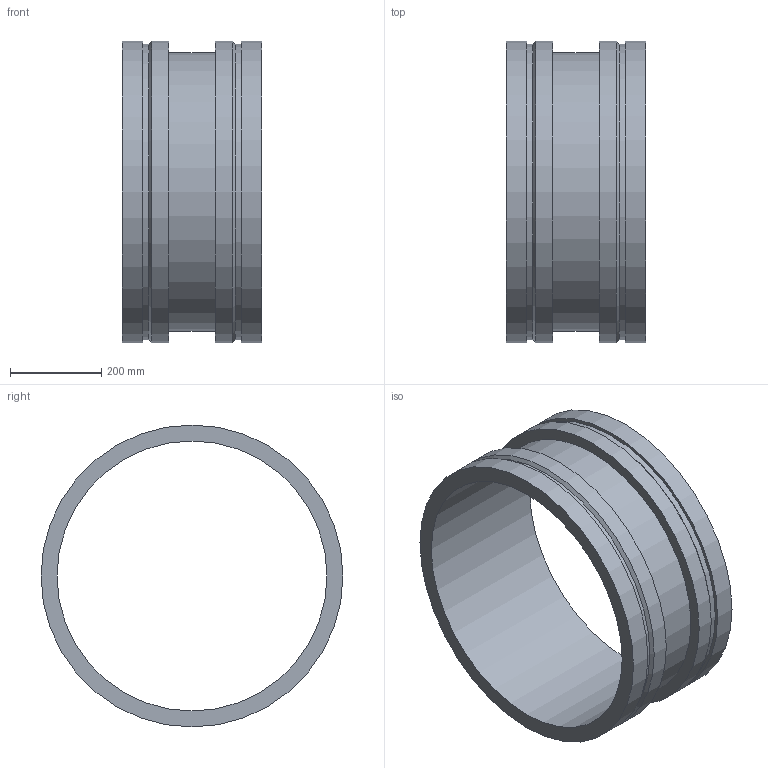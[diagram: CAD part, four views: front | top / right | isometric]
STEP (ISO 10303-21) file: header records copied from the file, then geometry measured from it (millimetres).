
FILE_DESCRIPTION(/* description */ ('VIC ADAPTER NIPPLE No W43 VR','CAx-IF Rec.Pracs.---Representation and Presentation of Product Manufacturing Information (PMI)---4.0---2014-10-13'),/* implementation_level */ '2;1');
FILE_NAME(/* name */ 'C:\Users\kkamble\AppData\Roaming\Autodesk\ApplicationPlugins\Back Up\Victaulic_Vic-Ring_Adapter Nipple_No W43 VR (AGR)\Victaulic_Vic-Ring_Adapter Nipple_No W43 VR (AGR)_24 (600).stp',/* time_stamp */ '2020-09-10T11:31:18+05:00',/* author */ ('cps_temp'),/* organization */ ('Victaulic'),/* preprocessor_version */ 'ST-DEVELOPER v17.2',/* originating_system */ 'Autodesk Inventor 2019',/* authorisation */ '');
FILE_SCHEMA (('AP242_MANAGED_MODEL_BASED_3D_ENGINEERING_MIM_LF { 1 0 10303 442 1 1 4 }'));
Length unit declared in the file: inch
Products named in the file (1): W43 VR-24.0
Bounding box: 304.8 x 660.4 x 660.4 mm (x, y, z)
Volume: 15275152.7 mm3; surface area: 1462286.9 mm2
Topology: 1 solids, 1 shells, 16 faces, 42 edges, 32 vertices
Faces by surface type: cylinder 8, plane 6, cone 2
Full cylindrical faces by diameter (mm): 590.55 x1, 609.6 x1, 645.922 x2, 660.4 x4
Entity records: 686 total; most frequent: DIRECTION 134, CARTESIAN_POINT 108, ORIENTED_EDGE 84, AXIS2_PLACEMENT_3D 62, EDGE_CURVE 42, CIRCLE 32, VERTEX_POINT 32, EDGE_LOOP 22
